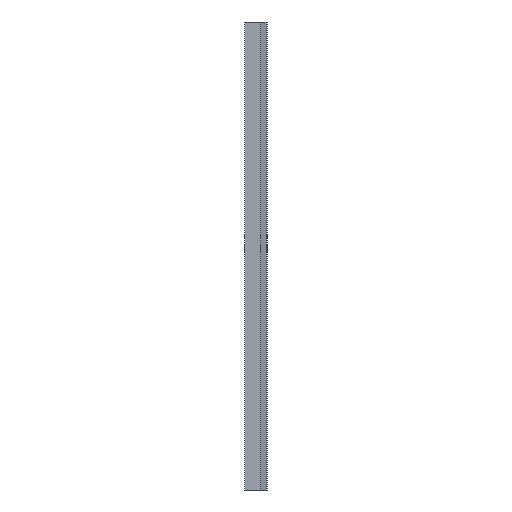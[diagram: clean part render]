
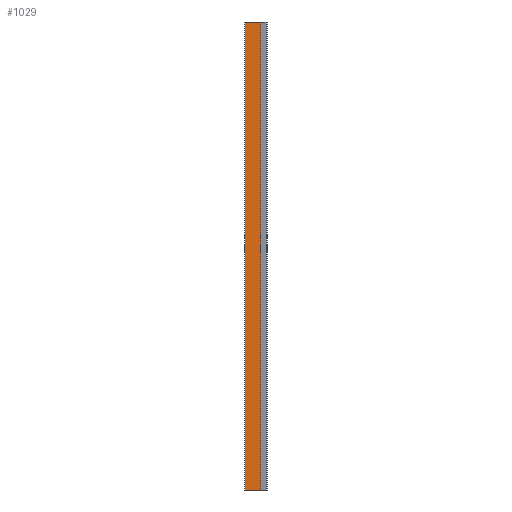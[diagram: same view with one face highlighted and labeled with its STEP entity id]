
A CAD part, left-side view. The second image highlights one B-rep face of the part: STEP entity #1029.
In plain terms, the highlighted planar face has unit normal (-1, 0, 0).
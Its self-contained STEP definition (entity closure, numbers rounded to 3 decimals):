
#51=FACE_OUTER_BOUND('',#103,.T.);
#103=EDGE_LOOP('',(#777,#778,#779,#780));
#199=LINE('',#1498,#343);
#216=LINE('',#1531,#360);
#217=LINE('',#1533,#361);
#218=LINE('',#1534,#362);
#343=VECTOR('',#1225,10.);
#360=VECTOR('',#1254,10.);
#361=VECTOR('',#1255,10.);
#362=VECTOR('',#1256,10.);
#466=VERTEX_POINT('',#1495);
#467=VERTEX_POINT('',#1497);
#477=VERTEX_POINT('',#1530);
#478=VERTEX_POINT('',#1532);
#583=EDGE_CURVE('',#466,#467,#199,.T.);
#600=EDGE_CURVE('',#477,#466,#216,.T.);
#601=EDGE_CURVE('',#477,#478,#217,.T.);
#602=EDGE_CURVE('',#478,#467,#218,.T.);
#777=ORIENTED_EDGE('',*,*,#600,.F.);
#778=ORIENTED_EDGE('',*,*,#601,.T.);
#779=ORIENTED_EDGE('',*,*,#602,.T.);
#780=ORIENTED_EDGE('',*,*,#583,.F.);
#977=PLANE('',#1083);
#1029=ADVANCED_FACE('',(#51),#977,.T.);
#1083=AXIS2_PLACEMENT_3D('',#1529,#1252,#1253);
#1225=DIRECTION('',(0.,0.,1.));
#1252=DIRECTION('center_axis',(-1.,0.,0.));
#1253=DIRECTION('ref_axis',(0.,0.,1.));
#1254=DIRECTION('',(0.,1.,0.));
#1255=DIRECTION('',(0.,0.,1.));
#1256=DIRECTION('',(0.,1.,0.));
#1495=CARTESIAN_POINT('',(-5.,0.,0.));
#1497=CARTESIAN_POINT('',(-5.,0.,160.));
#1498=CARTESIAN_POINT('',(-5.,0.,120.));
#1529=CARTESIAN_POINT('Origin',(-5.,-2.5,0.));
#1530=CARTESIAN_POINT('',(-5.,-5.5,0.));
#1531=CARTESIAN_POINT('',(-5.,-0.75,0.));
#1532=CARTESIAN_POINT('',(-5.,-5.5,160.));
#1533=CARTESIAN_POINT('',(-5.,-5.5,0.));
#1534=CARTESIAN_POINT('',(-5.,-5.5,160.));
